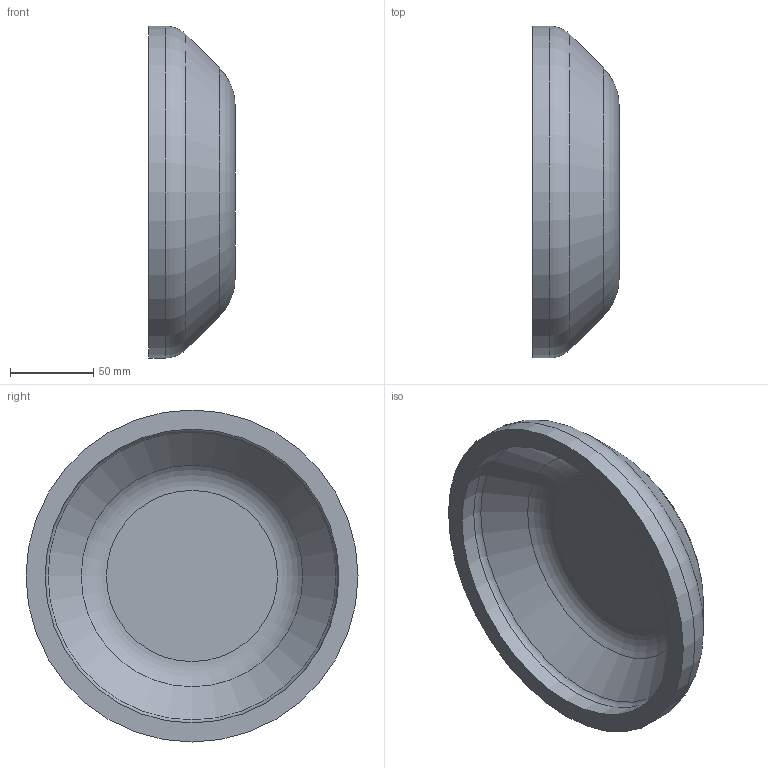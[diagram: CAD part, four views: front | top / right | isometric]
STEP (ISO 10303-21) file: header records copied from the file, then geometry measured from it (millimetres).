
FILE_DESCRIPTION(/* description */ (''),/* implementation_level */ '2;1');
FILE_NAME(/* name */ 'Z:\Geberit\Export\NewStep\Abschlussdeckel_Ipart\stp\370812.stp',/* time_stamp */ '2014-04-03T17:37:21+02:00',/* author */ ('Bründl'),/* organization */ (''),/* preprocessor_version */ 'ST-DEVELOPER v15.2',/* originating_system */ 'Autodesk Inventor 2014',/* authorisation */ '');
FILE_SCHEMA (('AUTOMOTIVE_DESIGN { 1 0 10303 214 3 1 1 }'));
Length unit declared in the file: millimetre
Products named in the file (1): 370812
Bounding box: 52 x 200 x 200 mm (x, y, z)
Volume: 487425 mm3; surface area: 91856.7 mm2
Topology: 1 solids, 1 shells, 11 faces, 18 edges, 10 vertices
Faces by surface type: torus 4, plane 3, cone 2, cylinder 2
Full cylindrical faces by diameter (mm): 177 x1, 200 x1
Entity records: 246 total; most frequent: DIRECTION 44, CARTESIAN_POINT 32, AXIS2_PLACEMENT_3D 22, EDGE_LOOP 20, ORIENTED_EDGE 20, STYLED_ITEM 12, FACE_OUTER_BOUND 11, ADVANCED_FACE 11
